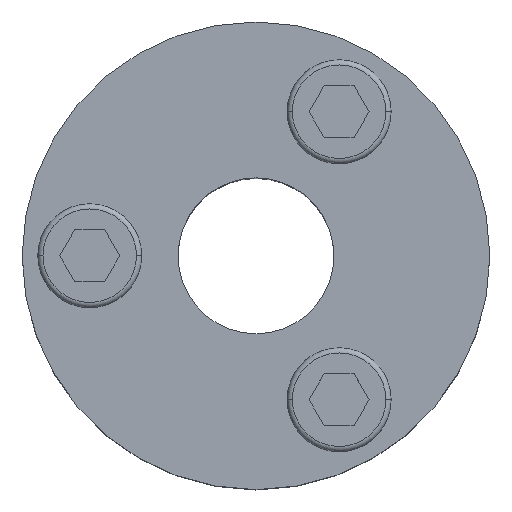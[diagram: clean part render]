
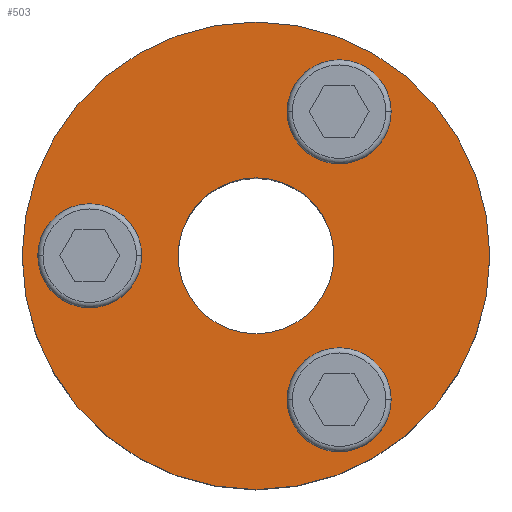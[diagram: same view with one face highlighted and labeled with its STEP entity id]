
A CAD part, top view. The second image highlights one B-rep face of the part: STEP entity #503.
In plain terms, the highlighted planar face has unit normal (0, 0, 1).
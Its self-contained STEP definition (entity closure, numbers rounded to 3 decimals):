
#18 = CARTESIAN_POINT ( 'NONE',  ( 13., 13.856, 0. ) ) ;
#19 = CIRCLE ( 'NONE', #641, 5. ) ;
#22 = DIRECTION ( 'NONE',  ( 0., 0., 1. ) ) ;
#26 = DIRECTION ( 'NONE',  ( -1., 0., 0. ) ) ;
#32 = CARTESIAN_POINT ( 'NONE',  ( -16., 0., 0. ) ) ;
#44 = AXIS2_PLACEMENT_3D ( 'NONE', #32, #22, #845 ) ;
#91 = CARTESIAN_POINT ( 'NONE',  ( -7.5, 0., 0. ) ) ;
#101 = ORIENTED_EDGE ( 'NONE', *, *, #451, .F. ) ;
#168 = AXIS2_PLACEMENT_3D ( 'NONE', #534, #643, #844 ) ;
#169 = EDGE_CURVE ( 'NONE', #623, #1224, #19, .T. ) ;
#170 = CARTESIAN_POINT ( 'NONE',  ( 13., -13.856, 0. ) ) ;
#193 = CARTESIAN_POINT ( 'NONE',  ( 3., 13.856, 0. ) ) ;
#195 = FACE_BOUND ( 'NONE', #885, .T. ) ;
#212 = VERTEX_POINT ( 'NONE', #91 ) ;
#219 = VERTEX_POINT ( 'NONE', #193 ) ;
#258 = AXIS2_PLACEMENT_3D ( 'NONE', #395, #1200, #585 ) ;
#266 = EDGE_LOOP ( 'NONE', ( #770, #1004 ) ) ;
#294 = AXIS2_PLACEMENT_3D ( 'NONE', #634, #646, #26 ) ;
#314 = CARTESIAN_POINT ( 'NONE',  ( 3., -13.856, 0. ) ) ;
#322 = ORIENTED_EDGE ( 'NONE', *, *, #1243, .F. ) ;
#331 = PLANE ( 'NONE',  #294 ) ;
#372 = CIRCLE ( 'NONE', #908, 22.5 ) ;
#395 = CARTESIAN_POINT ( 'NONE',  ( 0., 0., 0. ) ) ;
#401 = CARTESIAN_POINT ( 'NONE',  ( 0., 0., 0. ) ) ;
#430 = VERTEX_POINT ( 'NONE', #314 ) ;
#451 = EDGE_CURVE ( 'NONE', #430, #723, #837, .T. ) ;
#465 = EDGE_LOOP ( 'NONE', ( #954, #1265 ) ) ;
#494 = EDGE_CURVE ( 'NONE', #219, #1248, #546, .T. ) ;
#496 = AXIS2_PLACEMENT_3D ( 'NONE', #1223, #815, #911 ) ;
#503 = ADVANCED_FACE ( 'NONE', ( #1059, #195, #1300, #1075, #804 ), #331, .F. ) ;
#511 = AXIS2_PLACEMENT_3D ( 'NONE', #513, #917, #1229 ) ;
#513 = CARTESIAN_POINT ( 'NONE',  ( 8., -13.856, 0. ) ) ;
#534 = CARTESIAN_POINT ( 'NONE',  ( 8., -13.856, 0. ) ) ;
#544 = EDGE_LOOP ( 'NONE', ( #1081, #322 ) ) ;
#546 = CIRCLE ( 'NONE', #1277, 5. ) ;
#584 = CARTESIAN_POINT ( 'NONE',  ( 7.5, 0., 0. ) ) ;
#585 = DIRECTION ( 'NONE',  ( 1., 0., 0. ) ) ;
#623 = VERTEX_POINT ( 'NONE', #977 ) ;
#634 = CARTESIAN_POINT ( 'NONE',  ( -7.5, 0., 0. ) ) ;
#639 = CIRCLE ( 'NONE', #511, 5. ) ;
#641 = AXIS2_PLACEMENT_3D ( 'NONE', #887, #989, #882 ) ;
#643 = DIRECTION ( 'NONE',  ( 0., 0., 1. ) ) ;
#646 = DIRECTION ( 'NONE',  ( 0., 0., -1. ) ) ;
#647 = CARTESIAN_POINT ( 'NONE',  ( 0., 0., 0. ) ) ;
#665 = EDGE_CURVE ( 'NONE', #1248, #219, #1121, .T. ) ;
#690 = EDGE_CURVE ( 'NONE', #212, #1033, #1192, .T. ) ;
#710 = ORIENTED_EDGE ( 'NONE', *, *, #925, .T. ) ;
#723 = VERTEX_POINT ( 'NONE', #170 ) ;
#740 = AXIS2_PLACEMENT_3D ( 'NONE', #1268, #969, #1082 ) ;
#758 = DIRECTION ( 'NONE',  ( 1., 0., 0. ) ) ;
#768 = CIRCLE ( 'NONE', #807, 7.5 ) ;
#770 = ORIENTED_EDGE ( 'NONE', *, *, #1313, .F. ) ;
#798 = DIRECTION ( 'NONE',  ( 0., 0., 1. ) ) ;
#804 = FACE_OUTER_BOUND ( 'NONE', #979, .T. ) ;
#807 = AXIS2_PLACEMENT_3D ( 'NONE', #647, #861, #758 ) ;
#815 = DIRECTION ( 'NONE',  ( 0., 0., 1. ) ) ;
#835 = VERTEX_POINT ( 'NONE', #1190 ) ;
#837 = CIRCLE ( 'NONE', #168, 5. ) ;
#844 = DIRECTION ( 'NONE',  ( -1., 0., 0. ) ) ;
#845 = DIRECTION ( 'NONE',  ( -1., 0., 0. ) ) ;
#846 = DIRECTION ( 'NONE',  ( 0., 0., 1. ) ) ;
#861 = DIRECTION ( 'NONE',  ( 0., 0., 1. ) ) ;
#882 = DIRECTION ( 'NONE',  ( -1., 0., 0. ) ) ;
#885 = EDGE_LOOP ( 'NONE', ( #101, #1253 ) ) ;
#887 = CARTESIAN_POINT ( 'NONE',  ( -16., 0., 0. ) ) ;
#908 = AXIS2_PLACEMENT_3D ( 'NONE', #401, #798, #1122 ) ;
#911 = DIRECTION ( 'NONE',  ( 1., 0., 0. ) ) ;
#917 = DIRECTION ( 'NONE',  ( 0., 0., 1. ) ) ;
#925 = EDGE_CURVE ( 'NONE', #928, #835, #993, .T. ) ;
#928 = VERTEX_POINT ( 'NONE', #1015 ) ;
#942 = DIRECTION ( 'NONE',  ( -1., 0., 0. ) ) ;
#954 = ORIENTED_EDGE ( 'NONE', *, *, #494, .F. ) ;
#969 = DIRECTION ( 'NONE',  ( 0., 0., 1. ) ) ;
#977 = CARTESIAN_POINT ( 'NONE',  ( -21., 0., 0. ) ) ;
#979 = EDGE_LOOP ( 'NONE', ( #710, #1049 ) ) ;
#989 = DIRECTION ( 'NONE',  ( 0., 0., 1. ) ) ;
#993 = CIRCLE ( 'NONE', #496, 22.5 ) ;
#1004 = ORIENTED_EDGE ( 'NONE', *, *, #690, .F. ) ;
#1015 = CARTESIAN_POINT ( 'NONE',  ( 22.5, 0., 0. ) ) ;
#1027 = EDGE_CURVE ( 'NONE', #835, #928, #372, .T. ) ;
#1033 = VERTEX_POINT ( 'NONE', #584 ) ;
#1049 = ORIENTED_EDGE ( 'NONE', *, *, #1027, .T. ) ;
#1059 = FACE_BOUND ( 'NONE', #465, .T. ) ;
#1061 = CIRCLE ( 'NONE', #44, 5. ) ;
#1075 = FACE_BOUND ( 'NONE', #266, .T. ) ;
#1081 = ORIENTED_EDGE ( 'NONE', *, *, #169, .F. ) ;
#1082 = DIRECTION ( 'NONE',  ( -1., 0., 0. ) ) ;
#1121 = CIRCLE ( 'NONE', #740, 5. ) ;
#1122 = DIRECTION ( 'NONE',  ( 1., 0., 0. ) ) ;
#1154 = CARTESIAN_POINT ( 'NONE',  ( 8., 13.856, 0. ) ) ;
#1167 = EDGE_CURVE ( 'NONE', #723, #430, #639, .T. ) ;
#1190 = CARTESIAN_POINT ( 'NONE',  ( -22.5, 0., 0. ) ) ;
#1192 = CIRCLE ( 'NONE', #258, 7.5 ) ;
#1200 = DIRECTION ( 'NONE',  ( 0., 0., 1. ) ) ;
#1223 = CARTESIAN_POINT ( 'NONE',  ( 0., 0., 0. ) ) ;
#1224 = VERTEX_POINT ( 'NONE', #1234 ) ;
#1229 = DIRECTION ( 'NONE',  ( -1., 0., 0. ) ) ;
#1234 = CARTESIAN_POINT ( 'NONE',  ( -11., 0., 0. ) ) ;
#1243 = EDGE_CURVE ( 'NONE', #1224, #623, #1061, .T. ) ;
#1248 = VERTEX_POINT ( 'NONE', #18 ) ;
#1253 = ORIENTED_EDGE ( 'NONE', *, *, #1167, .F. ) ;
#1265 = ORIENTED_EDGE ( 'NONE', *, *, #665, .F. ) ;
#1268 = CARTESIAN_POINT ( 'NONE',  ( 8., 13.856, 0. ) ) ;
#1277 = AXIS2_PLACEMENT_3D ( 'NONE', #1154, #846, #942 ) ;
#1300 = FACE_BOUND ( 'NONE', #544, .T. ) ;
#1313 = EDGE_CURVE ( 'NONE', #1033, #212, #768, .T. ) ;
